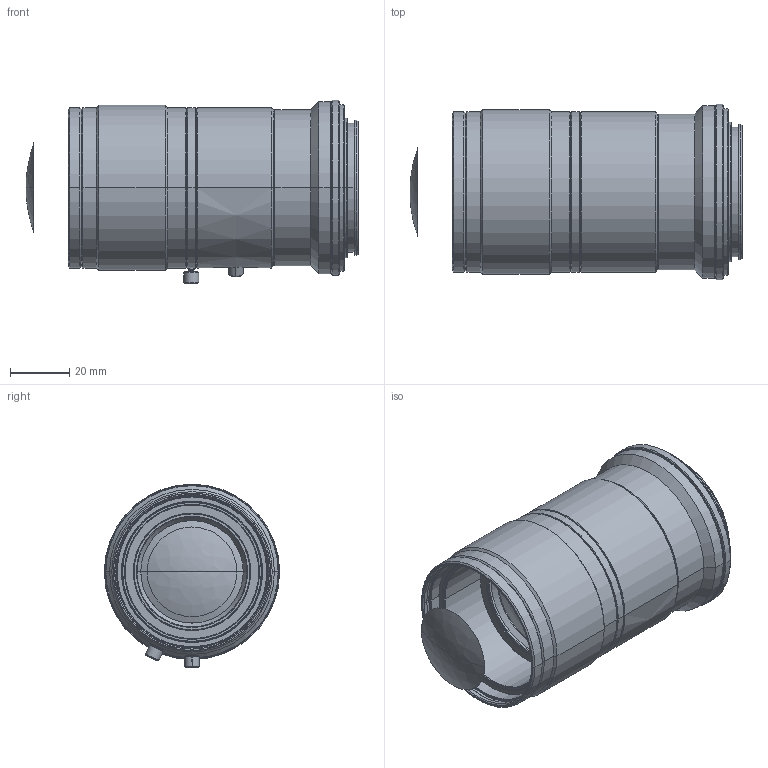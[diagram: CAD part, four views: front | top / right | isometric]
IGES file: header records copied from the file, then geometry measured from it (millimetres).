
Start section: SolidWorks IGES file using analytic representation for surfaces
Global section: file name: C:\Documents and Settings\Tsuji_vst\デスクトップ\VS-L8540_F.IGS; native system: SolidWorks 2012; preprocessor: SolidWorks 2012; author: Tsuji_vst; date: 131024.091402; units: millimetre
Bounding box: 111.77 x 59 x 61.8 mm (x, y, z)
Surface area: 33349.9 mm2 (no closed solid volume)
Topology: 0 solids, 0 shells, 207 faces, 4660 edges, 4658 vertices
Faces by surface type: revolution 174, bspline 33
